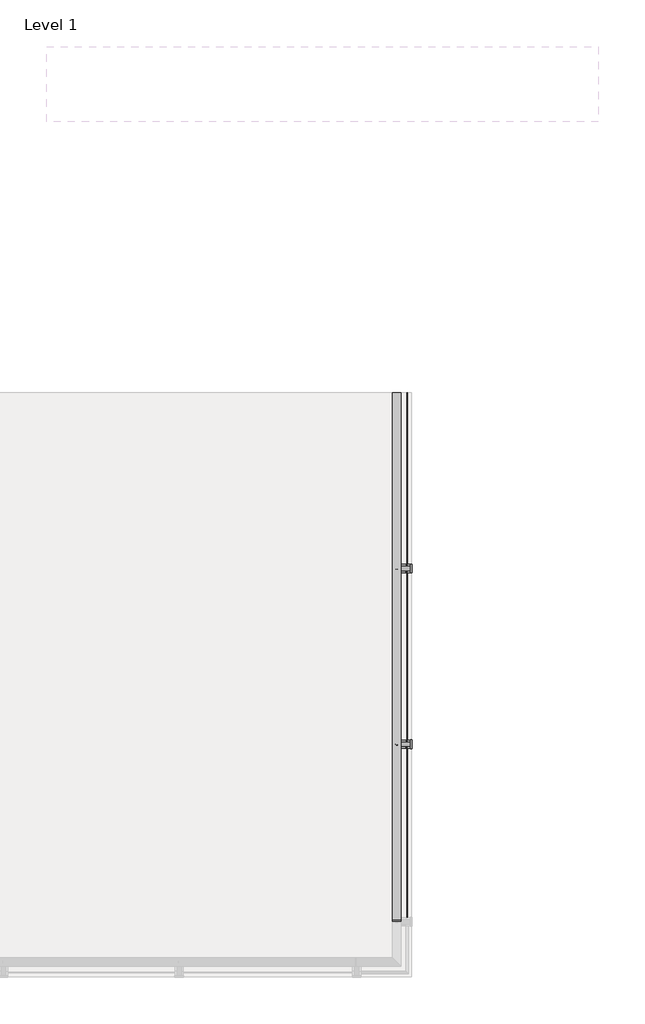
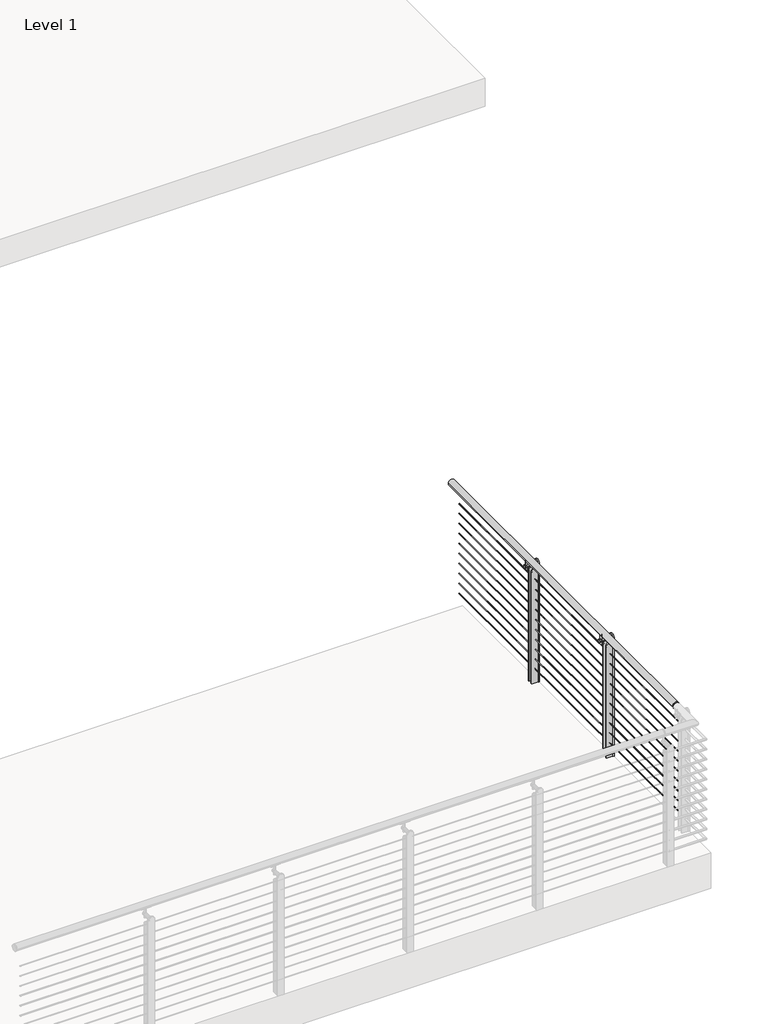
# One storey, part 9 of 9: 1 railing.
"""IFC4 building model written with IfcOpenShell, lengths in millimetres."""

from ifc_helpers import new_model, si_unit, point, frame, frame_2d, origin, place, context, project, spatial, polyline, circle_curve, trimmed, segment, composite_curve, outline, extrude, element, save
from ifc_brep_helpers import plane_surface, cylinder_surface, advanced_brep

model = new_model("IFC4")

# Units and contexts
model_context = context("Model", 3, world=origin())
ifc_project = project(units=[si_unit("LENGTHUNIT", "METRE", prefix="MILLI")], contexts=[model_context])

# Site, building, storey
site = spatial("IfcSite", under=ifc_project)
building = spatial("IfcBuilding", under=site)
storey = spatial("IfcBuildingStorey", under=building, Name="Level 1", Elevation=0.0)

# Railing
placement = place(None, origin())
element("IfcRailing", 1, ObjectType="VIVA-TEE-Cable-Weld Mount-Straight", at=placement, inside=storey, context=model_context, shape_type="SolidModel", body=[
    advanced_brep(
    [(-4853.1394753, -5801.4943064, 1054.1), (-4903.9394753, -5801.4943064, 1054.1), (-4853.1394753, -5791.0626818, 1054.1), (-4903.9394753, -5791.0626818, 1054.1), (-4853.1394753, -2743.0626818, 1054.1), (-4903.9394753, -2743.0626818, 1054.1)],
    [
        (0, 1, circle_curve(frame((-4878.5394753, -5801.4943064, 1054.1), z_axis=(0.0, -1.0, 0.0), x_axis=(-1.0, 0.0, 0.0)), 25.4)),
        (1, 0, circle_curve(frame((-4878.5394753, -5801.4943064, 1054.1), z_axis=(0.0, -1.0, 0.0), x_axis=(-1.0, 0.0, 0.0)), 25.4)),
        (0, 2),
        (2, 3, circle_curve(frame((-4878.5394753, -5791.0626818, 1054.1), z_axis=(0.0, -1.0, 0.0), x_axis=(-1.0, 0.0, 0.0)), 25.4)),
        (3, 1),
        (3, 2, circle_curve(frame((-4878.5394753, -5791.0626818, 1054.1), z_axis=(0.0, -1.0, 0.0), x_axis=(-1.0, 0.0, 0.0)), 25.4)),
        (4, 5, circle_curve(frame((-4878.5394753, -2743.0626818, 1054.1), z_axis=(0.0, 1.0, 0.0), x_axis=(-1.0, 0.0, 0.0)), 25.4)),
        (5, 4, circle_curve(frame((-4878.5394753, -2743.0626818, 1054.1), z_axis=(0.0, 1.0, 0.0), x_axis=(-1.0, 0.0, 0.0)), 25.4)),
        (2, 4),
        (5, 3),
    ],
    [
        plane_surface(frame((-4878.5394753, -5801.4943064, 1079.5), z_axis=(0.0, -1.0, 0.0), x_axis=(0.0, 0.0, 1.0))),
        cylinder_surface(frame((-4878.5394753, -5801.4943064, 1054.1), z_axis=(0.0, -1.0, 0.0), x_axis=(-1.0, 0.0, 0.0)), 25.4),
        plane_surface(frame((-4878.5394753, -2743.0626818, 1079.5), z_axis=(0.0, 1.0, 0.0), x_axis=(0.0, 0.0, 1.0))),
        cylinder_surface(frame((-4878.5394753, -5791.0626818, 1054.1), z_axis=(0.0, -1.0, 0.0), x_axis=(-1.0, 0.0, 0.0)), 25.4),
    ],
    [
        (0, [[1, 2]]),
        (1, [[-1, 3, 4, 5]]),
        (1, [[-2, -5, 6, -3]]),
        (2, [[7, 8]]),
        (3, [[-4, 9, -8, 10]]),
        (3, [[-6, -10, -7, -9]]),
    ],
),
    extrude(outline(composite_curve([segment(trimmed(circle_curve(frame_2d((937.4124, -4818.2144753)), 2.3876), [point((937.4124, -4820.6020753))], [point((937.4124, -4815.8268753))], False, "CARTESIAN"), True, "CONTINUOUS"), segment(trimmed(circle_curve(frame_2d((937.4124, -4818.2144753)), 2.3876), [point((937.4124, -4815.8268753))], [point((937.4124, -4820.6020753))], False, "CARTESIAN"), True, "CONTINUOUS")], self_intersect=False)), frame((0.0, -5791.0626818, 0.0), z_axis=(0.0, 1.0, 0.0), x_axis=(0.0, 0.0, 1.0)), (0.0, 0.0, 1.0), 3048.0),
    extrude(outline(composite_curve([segment(trimmed(circle_curve(frame_2d((854.8624, -4818.2144753)), 2.3876), [point((854.8624, -4820.6020753))], [point((854.8624, -4815.8268753))], False, "CARTESIAN"), True, "CONTINUOUS"), segment(trimmed(circle_curve(frame_2d((854.8624, -4818.2144753)), 2.3876), [point((854.8624, -4815.8268753))], [point((854.8624, -4820.6020753))], False, "CARTESIAN"), True, "CONTINUOUS")], self_intersect=False)), frame((0.0, -5791.0626818, 0.0), z_axis=(0.0, 1.0, 0.0), x_axis=(0.0, 0.0, 1.0)), (0.0, 0.0, 1.0), 3048.0),
    extrude(outline(composite_curve([segment(trimmed(circle_curve(frame_2d((772.3124, -4818.2144753)), 2.3876), [point((772.3124, -4820.6020753))], [point((772.3124, -4815.8268753))], False, "CARTESIAN"), True, "CONTINUOUS"), segment(trimmed(circle_curve(frame_2d((772.3124, -4818.2144753)), 2.3876), [point((772.3124, -4815.8268753))], [point((772.3124, -4820.6020753))], False, "CARTESIAN"), True, "CONTINUOUS")], self_intersect=False)), frame((0.0, -5791.0626818, 0.0), z_axis=(0.0, 1.0, 0.0), x_axis=(0.0, 0.0, 1.0)), (0.0, 0.0, 1.0), 3048.0),
    extrude(outline(composite_curve([segment(trimmed(circle_curve(frame_2d((689.7624, -4818.2144753)), 2.3876), [point((689.7624, -4820.6020753))], [point((689.7624, -4815.8268753))], False, "CARTESIAN"), True, "CONTINUOUS"), segment(trimmed(circle_curve(frame_2d((689.7624, -4818.2144753)), 2.3876), [point((689.7624, -4815.8268753))], [point((689.7624, -4820.6020753))], False, "CARTESIAN"), True, "CONTINUOUS")], self_intersect=False)), frame((0.0, -5791.0626818, 0.0), z_axis=(0.0, 1.0, 0.0), x_axis=(0.0, 0.0, 1.0)), (0.0, 0.0, 1.0), 3048.0),
    extrude(outline(composite_curve([segment(trimmed(circle_curve(frame_2d((607.2124, -4818.2144753)), 2.3876), [point((607.2124, -4820.6020753))], [point((607.2124, -4815.8268753))], False, "CARTESIAN"), True, "CONTINUOUS"), segment(trimmed(circle_curve(frame_2d((607.2124, -4818.2144753)), 2.3876), [point((607.2124, -4815.8268753))], [point((607.2124, -4820.6020753))], False, "CARTESIAN"), True, "CONTINUOUS")], self_intersect=False)), frame((0.0, -5791.0626818, 0.0), z_axis=(0.0, 1.0, 0.0), x_axis=(0.0, 0.0, 1.0)), (0.0, 0.0, 1.0), 3048.0),
    extrude(outline(composite_curve([segment(trimmed(circle_curve(frame_2d((524.6624, -4818.2144753)), 2.3876), [point((524.6624, -4820.6020753))], [point((524.6624, -4815.8268753))], False, "CARTESIAN"), True, "CONTINUOUS"), segment(trimmed(circle_curve(frame_2d((524.6624, -4818.2144753)), 2.3876), [point((524.6624, -4815.8268753))], [point((524.6624, -4820.6020753))], False, "CARTESIAN"), True, "CONTINUOUS")], self_intersect=False)), frame((0.0, -5791.0626818, 0.0), z_axis=(0.0, 1.0, 0.0), x_axis=(0.0, 0.0, 1.0)), (0.0, 0.0, 1.0), 3048.0),
    extrude(outline(composite_curve([segment(trimmed(circle_curve(frame_2d((442.1124, -4818.2144753)), 2.3876), [point((442.1124, -4820.6020753))], [point((442.1124, -4815.8268753))], False, "CARTESIAN"), True, "CONTINUOUS"), segment(trimmed(circle_curve(frame_2d((442.1124, -4818.2144753)), 2.3876), [point((442.1124, -4815.8268753))], [point((442.1124, -4820.6020753))], False, "CARTESIAN"), True, "CONTINUOUS")], self_intersect=False)), frame((0.0, -5791.0626818, 0.0), z_axis=(0.0, 1.0, 0.0), x_axis=(0.0, 0.0, 1.0)), (0.0, 0.0, 1.0), 3048.0),
    extrude(outline(composite_curve([segment(trimmed(circle_curve(frame_2d((359.5624, -4818.2144753)), 2.3876), [point((359.5624, -4820.6020753))], [point((359.5624, -4815.8268753))], False, "CARTESIAN"), True, "CONTINUOUS"), segment(trimmed(circle_curve(frame_2d((359.5624, -4818.2144753)), 2.3876), [point((359.5624, -4815.8268753))], [point((359.5624, -4820.6020753))], False, "CARTESIAN"), True, "CONTINUOUS")], self_intersect=False)), frame((0.0, -5791.0626818, 0.0), z_axis=(0.0, 1.0, 0.0), x_axis=(0.0, 0.0, 1.0)), (0.0, 0.0, 1.0), 3048.0),
    extrude(outline(composite_curve([segment(trimmed(circle_curve(frame_2d((277.0124, -4818.2144753)), 2.3876), [point((277.0124, -4820.6020753))], [point((277.0124, -4815.8268753))], False, "CARTESIAN"), True, "CONTINUOUS"), segment(trimmed(circle_curve(frame_2d((277.0124, -4818.2144753)), 2.3876), [point((277.0124, -4815.8268753))], [point((277.0124, -4820.6020753))], False, "CARTESIAN"), True, "CONTINUOUS")], self_intersect=False)), frame((0.0, -5791.0626818, 0.0), z_axis=(0.0, 1.0, 0.0), x_axis=(0.0, 0.0, 1.0)), (0.0, 0.0, 1.0), 3048.0),
    extrude(outline(composite_curve([segment(trimmed(circle_curve(frame_2d((194.4624, -4818.2144753)), 2.3876), [point((194.4624, -4820.6020753))], [point((194.4624, -4815.8268753))], False, "CARTESIAN"), True, "CONTINUOUS"), segment(trimmed(circle_curve(frame_2d((194.4624, -4818.2144753)), 2.3876), [point((194.4624, -4815.8268753))], [point((194.4624, -4820.6020753))], False, "CARTESIAN"), True, "CONTINUOUS")], self_intersect=False)), frame((0.0, -5791.0626818, 0.0), z_axis=(0.0, 1.0, 0.0), x_axis=(0.0, 0.0, 1.0)), (0.0, 0.0, 1.0), 3048.0),
    extrude(outline(composite_curve([segment(trimmed(circle_curve(frame_2d((111.9124, -4818.2144753)), 2.3876), [point((111.9124, -4820.6020753))], [point((111.9124, -4815.8268753))], False, "CARTESIAN"), True, "CONTINUOUS"), segment(trimmed(circle_curve(frame_2d((111.9124, -4818.2144753)), 2.3876), [point((111.9124, -4815.8268753))], [point((111.9124, -4820.6020753))], False, "CARTESIAN"), True, "CONTINUOUS")], self_intersect=False)), frame((0.0, -5791.0626818, 0.0), z_axis=(0.0, 1.0, 0.0), x_axis=(0.0, 0.0, 1.0)), (0.0, 0.0, 1.0), 3048.0),
    extrude(outline(composite_curve([segment(trimmed(circle_curve(frame_2d((0.0, 7.0)), 7.0), [point((0.0, 14.0))], [point((0.0, 0.0))], False, "CARTESIAN"), True, "CONTINUOUS"), segment(trimmed(circle_curve(frame_2d((0.0, 7.0)), 7.0), [point((0.0, 0.0))], [point((0.0, 14.0))], False, "CARTESIAN"), True, "CONTINUOUS")], self_intersect=False)), frame((-4871.8296215, -3758.9889719, 949.1832524), z_axis=(0.0, 0.004253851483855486, 0.9999909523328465), x_axis=(0.0, 0.9999909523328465, -0.004253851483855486)), (0.0, 0.0, 1.0), 75.97),
    extrude(outline(composite_curve([segment(trimmed(circle_curve(frame_2d((1047.2025651, -4878.9710255)), 19.05), [point((1033.7916463, -4865.4414373))], [point((1033.7916463, -4892.5006138))], True, "CARTESIAN"), True, "CONTINUOUS"), segment(polyline([(1033.7916463, -4892.5006138), (1032.7742593, -4893.5270034)]), True, "CONTINUOUS"), segment(trimmed(circle_curve(frame_2d((1031.7089374, -4892.4710255)), 1.5), [point((1032.7742593, -4893.5270034))], [point((1030.5780156, -4893.456427))], False, "CARTESIAN"), True, "CONTINUOUS"), segment(trimmed(circle_curve(frame_2d((1047.2025651, -4878.9710255)), 22.05), [point((1030.5780156, -4893.456427))], [point((1030.5780156, -4864.4856241))], False, "CARTESIAN"), True, "CONTINUOUS"), segment(trimmed(circle_curve(frame_2d((1031.7089374, -4865.4710255)), 1.5), [point((1030.5780156, -4864.4856241))], [point((1032.7742593, -4864.4150477))], False, "CARTESIAN"), True, "CONTINUOUS"), segment(polyline([(1032.7742593, -4864.4150477), (1033.7916463, -4865.4414373)]), True, "CONTINUOUS")], self_intersect=False)), frame((0.0, -3794.5274461, 0.0), z_axis=(0.0, 1.0, 0.0), x_axis=(0.0, 0.0, 1.0)), (0.0, 0.0, 1.0), 74.5229187),
    extrude(outline(composite_curve([segment(trimmed(circle_curve(frame_2d((-3758.7846415, 976.1259188)), 12.5), [point((-3771.2846415, 976.1259188))], [point((-3746.2846415, 976.1259188))], False, "CARTESIAN"), True, "CONTINUOUS"), segment(trimmed(circle_curve(frame_2d((-3758.7846415, 976.1259188)), 12.5), [point((-3746.2846415, 976.1259188))], [point((-3771.2846415, 976.1259188))], False, "CARTESIAN"), True, "CONTINUOUS")], self_intersect=False)), frame((-4891.4866356, 0.0, 0.0), z_axis=(1.0, 0.0, 0.0), x_axis=(0.0, 1.0, 0.0)), (0.0, 0.0, 1.0), 92.423),
    extrude(outline(composite_curve([segment(trimmed(circle_curve(frame_2d((924.2425, -4825.2299268)), 24.765), [point((949.0075, -4825.2299268))], [point((924.2425, -4849.9949268))], False, "CARTESIAN"), True, "CONTINUOUS"), segment(polyline([(924.2425, -4849.9949268), (0.0, -4849.9949268), (0.0, -4799.1644753), (949.0075, -4799.1644753), (949.0075, -4825.2299268)]), True, "CONTINUOUS")], self_intersect=False)), frame((0.0, -3744.6623073, 0.0), z_axis=(0.0, 1.0, 0.0), x_axis=(0.0, 0.0, 1.0)), (0.0, 0.0, 1.0), 9.525),
    extrude(outline(composite_curve([segment(polyline([(-3733.2658068, 0.0), (-3784.0658068, 0.0), (-3784.0658068, 979.17)]), True, "CONTINUOUS"), segment(trimmed(circle_curve(frame_2d((-3758.6658068, 979.17)), 25.4), [point((-3784.0658068, 979.17))], [point((-3733.2658068, 979.17))], False, "CARTESIAN"), True, "CONTINUOUS"), segment(polyline([(-3733.2658068, 979.17), (-3733.2658068, 0.0)]), True, "CONTINUOUS")], self_intersect=False)), frame((-4799.1644753, 0.0, 0.0), z_axis=(1.0, 0.0, 0.0), x_axis=(0.0, 1.0, 0.0)), (0.0, 0.0, 1.0), 9.525),
    extrude(outline(composite_curve([segment(trimmed(circle_curve(frame_2d((924.2425, -4825.2299268)), 24.765), [point((949.0075, -4825.2299268))], [point((924.2425, -4849.9949268))], False, "CARTESIAN"), True, "CONTINUOUS"), segment(polyline([(924.2425, -4849.9949268), (0.0, -4849.9949268), (0.0, -4799.1644753), (949.0075, -4799.1644753), (949.0075, -4825.2299268)]), True, "CONTINUOUS")], self_intersect=False)), frame((0.0, -3782.1943064, 0.0), z_axis=(0.0, 1.0, 0.0), x_axis=(0.0, 0.0, 1.0)), (0.0, 0.0, 1.0), 9.525),
    extrude(outline(composite_curve([segment(trimmed(circle_curve(frame_2d((0.0, 7.0)), 7.0), [point((0.0, 14.0))], [point((0.0, 0.0))], False, "CARTESIAN"), True, "CONTINUOUS"), segment(trimmed(circle_curve(frame_2d((0.0, 7.0)), 7.0), [point((0.0, 0.0))], [point((0.0, 14.0))], False, "CARTESIAN"), True, "CONTINUOUS")], self_intersect=False)), frame((-4871.8296215, -4774.9889719, 949.1832524), z_axis=(0.0, 0.004253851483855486, 0.9999909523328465), x_axis=(0.0, 0.9999909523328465, -0.004253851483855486)), (0.0, 0.0, 1.0), 75.97),
    extrude(outline(composite_curve([segment(trimmed(circle_curve(frame_2d((1047.2025651, -4878.9710255)), 19.05), [point((1033.7916463, -4865.4414373))], [point((1033.7916463, -4892.5006138))], True, "CARTESIAN"), True, "CONTINUOUS"), segment(polyline([(1033.7916463, -4892.5006138), (1032.7742593, -4893.5270034)]), True, "CONTINUOUS"), segment(trimmed(circle_curve(frame_2d((1031.7089374, -4892.4710255)), 1.5), [point((1032.7742593, -4893.5270034))], [point((1030.5780156, -4893.456427))], False, "CARTESIAN"), True, "CONTINUOUS"), segment(trimmed(circle_curve(frame_2d((1047.2025651, -4878.9710255)), 22.05), [point((1030.5780156, -4893.456427))], [point((1030.5780156, -4864.4856241))], False, "CARTESIAN"), True, "CONTINUOUS"), segment(trimmed(circle_curve(frame_2d((1031.7089374, -4865.4710255)), 1.5), [point((1030.5780156, -4864.4856241))], [point((1032.7742593, -4864.4150477))], False, "CARTESIAN"), True, "CONTINUOUS"), segment(polyline([(1032.7742593, -4864.4150477), (1033.7916463, -4865.4414373)]), True, "CONTINUOUS")], self_intersect=False)), frame((0.0, -4810.5274461, 0.0), z_axis=(0.0, 1.0, 0.0), x_axis=(0.0, 0.0, 1.0)), (0.0, 0.0, 1.0), 74.5229187),
    extrude(outline(composite_curve([segment(trimmed(circle_curve(frame_2d((-4774.7846415, 976.1259188)), 12.5), [point((-4787.2846415, 976.1259188))], [point((-4762.2846415, 976.1259188))], False, "CARTESIAN"), True, "CONTINUOUS"), segment(trimmed(circle_curve(frame_2d((-4774.7846415, 976.1259188)), 12.5), [point((-4762.2846415, 976.1259188))], [point((-4787.2846415, 976.1259188))], False, "CARTESIAN"), True, "CONTINUOUS")], self_intersect=False)), frame((-4891.4866356, 0.0, 0.0), z_axis=(1.0, 0.0, 0.0), x_axis=(0.0, 1.0, 0.0)), (0.0, 0.0, 1.0), 92.423),
    extrude(outline(composite_curve([segment(trimmed(circle_curve(frame_2d((924.2425, -4825.2299268)), 24.765), [point((949.0075, -4825.2299268))], [point((924.2425, -4849.9949268))], False, "CARTESIAN"), True, "CONTINUOUS"), segment(polyline([(924.2425, -4849.9949268), (0.0, -4849.9949268), (0.0, -4799.1644753), (949.0075, -4799.1644753), (949.0075, -4825.2299268)]), True, "CONTINUOUS")], self_intersect=False)), frame((0.0, -4760.6623073, 0.0), z_axis=(0.0, 1.0, 0.0), x_axis=(0.0, 0.0, 1.0)), (0.0, 0.0, 1.0), 9.525),
    extrude(outline(composite_curve([segment(polyline([(-4749.2658068, 0.0), (-4800.0658068, 0.0), (-4800.0658068, 979.17)]), True, "CONTINUOUS"), segment(trimmed(circle_curve(frame_2d((-4774.6658068, 979.17)), 25.4), [point((-4800.0658068, 979.17))], [point((-4749.2658068, 979.17))], False, "CARTESIAN"), True, "CONTINUOUS"), segment(polyline([(-4749.2658068, 979.17), (-4749.2658068, 0.0)]), True, "CONTINUOUS")], self_intersect=False)), frame((-4799.1644753, 0.0, 0.0), z_axis=(1.0, 0.0, 0.0), x_axis=(0.0, 1.0, 0.0)), (0.0, 0.0, 1.0), 9.525),
    extrude(outline(composite_curve([segment(trimmed(circle_curve(frame_2d((924.2425, -4825.2299268)), 24.765), [point((949.0075, -4825.2299268))], [point((924.2425, -4849.9949268))], False, "CARTESIAN"), True, "CONTINUOUS"), segment(polyline([(924.2425, -4849.9949268), (0.0, -4849.9949268), (0.0, -4799.1644753), (949.0075, -4799.1644753), (949.0075, -4825.2299268)]), True, "CONTINUOUS")], self_intersect=False)), frame((0.0, -4798.1943064, 0.0), z_axis=(0.0, 1.0, 0.0), x_axis=(0.0, 0.0, 1.0)), (0.0, 0.0, 1.0), 9.525),
])

save(model, "model.ifc")
